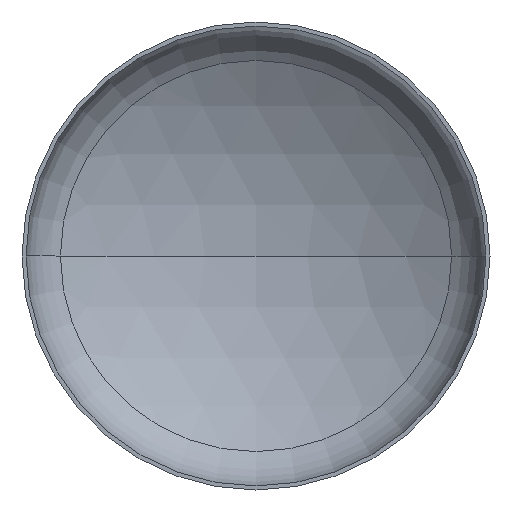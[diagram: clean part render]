
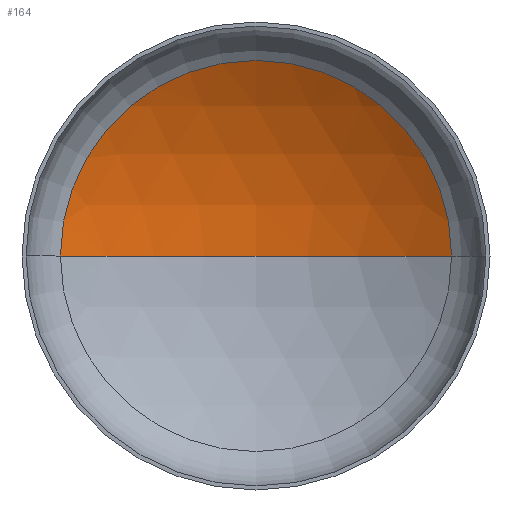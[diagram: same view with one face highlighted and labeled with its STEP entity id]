
A CAD part, front view. The second image highlights one B-rep face of the part: STEP entity #164.
In plain terms, the highlighted spherical face has radius 5200 mm.
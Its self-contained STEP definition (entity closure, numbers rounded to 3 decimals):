
#9 = ORIENTED_EDGE ( 'NONE', *, *, #160, .T. ) ;
#19 = DIRECTION ( 'NONE',  ( -1., 0., 0. ) ) ;
#21 = ORIENTED_EDGE ( 'NONE', *, *, #163, .T. ) ;
#35 = VERTEX_POINT ( 'NONE', #278 ) ;
#40 = DIRECTION ( 'NONE',  ( 0., 0., 1. ) ) ;
#50 = ORIENTED_EDGE ( 'NONE', *, *, #165, .F. ) ;
#51 = VERTEX_POINT ( 'NONE', #257 ) ;
#72 = VERTEX_POINT ( 'NONE', #241 ) ;
#85 = EDGE_LOOP ( 'NONE', ( #50, #21, #9 ) ) ;
#94 = AXIS2_PLACEMENT_3D ( 'NONE', #208, #311, #19 ) ;
#97 = AXIS2_PLACEMENT_3D ( 'NONE', #277, #40, #324 ) ;
#104 = AXIS2_PLACEMENT_3D ( 'NONE', #204, #280, #301 ) ;
#111 = AXIS2_PLACEMENT_3D ( 'NONE', #207, #209, #347 ) ;
#160 = EDGE_CURVE ( 'NONE', #35, #72, #384, .T. ) ;
#163 = EDGE_CURVE ( 'NONE', #51, #35, #331, .T. ) ;
#164 = ADVANCED_FACE ( 'NONE', ( #206 ), #269, .F. ) ;
#165 = EDGE_CURVE ( 'NONE', #51, #72, #377, .T. ) ;
#204 = CARTESIAN_POINT ( 'NONE',  ( 0., -3461.391, 0. ) ) ;
#206 = FACE_OUTER_BOUND ( 'NONE', #85, .T. ) ;
#207 = CARTESIAN_POINT ( 'NONE',  ( 0., 972.712, 0. ) ) ;
#208 = CARTESIAN_POINT ( 'NONE',  ( 0., -3461.391, 0. ) ) ;
#209 = DIRECTION ( 'NONE',  ( 0., -1., 0. ) ) ;
#241 = CARTESIAN_POINT ( 'NONE',  ( -2716.381, 972.712, 0. ) ) ;
#257 = CARTESIAN_POINT ( 'NONE',  ( 0., 1738.609, 0. ) ) ;
#269 = SPHERICAL_SURFACE ( 'NONE', #94, 5200. ) ;
#277 = CARTESIAN_POINT ( 'NONE',  ( 0., -3461.391, 0. ) ) ;
#278 = CARTESIAN_POINT ( 'NONE',  ( 2716.381, 972.712, 0. ) ) ;
#280 = DIRECTION ( 'NONE',  ( 0., 0., -1. ) ) ;
#301 = DIRECTION ( 'NONE',  ( -1., 0., 0. ) ) ;
#311 = DIRECTION ( 'NONE',  ( 0., 0., -1. ) ) ;
#324 = DIRECTION ( 'NONE',  ( 1., 0., 0. ) ) ;
#331 = CIRCLE ( 'NONE', #104, 5200. ) ;
#347 = DIRECTION ( 'NONE',  ( 1., 0., 0. ) ) ;
#377 = CIRCLE ( 'NONE', #97, 5200. ) ;
#384 = CIRCLE ( 'NONE', #111, 2716.381 ) ;
